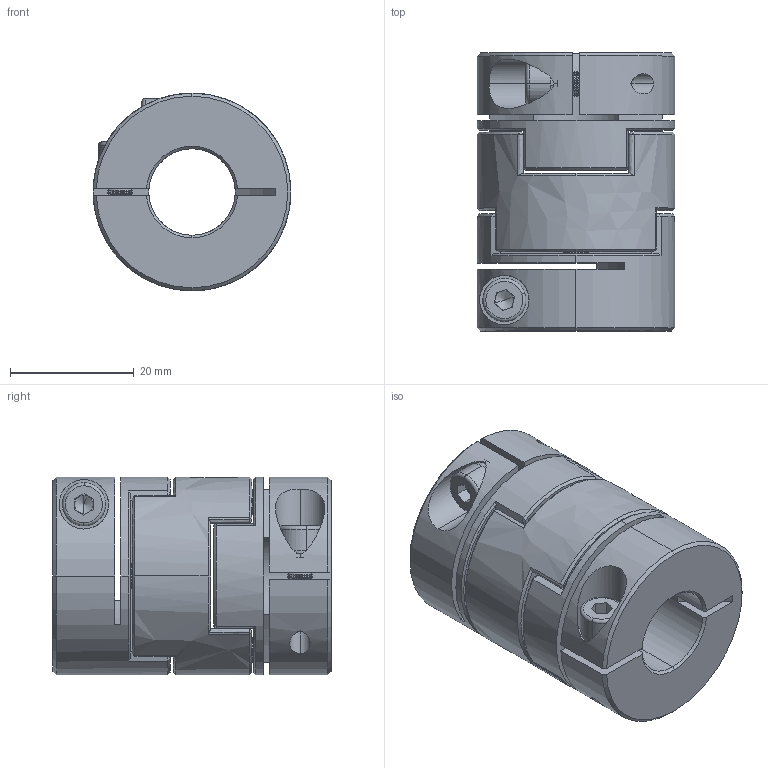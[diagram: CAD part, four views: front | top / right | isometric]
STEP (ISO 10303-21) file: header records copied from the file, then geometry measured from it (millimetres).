
FILE_DESCRIPTION (( 'STEP AP203' ), '1' );
FILE_NAME ('LZ-B-D32L45-14-16.STEP', '2021-10-29T06:48:24', ( '' ), ( '' ), 'SwSTEP 2.0', 'SolidWorks 2018', '' );
FILE_SCHEMA (( 'CONFIG_CONTROL_DESIGN' ));
Length unit declared in the file: millimetre
Products named in the file (1): LZ-B-D32L45-14-16
Bounding box: 32 x 45 x 32 mm (x, y, z)
Volume: 25811.5 mm3; surface area: 12938.7 mm2
Topology: 1 solids, 1 shells, 357 faces, 862 edges, 502 vertices
Faces by surface type: cone 118, cylinder 92, plane 85, bspline 54, torus 8
Entity records: 11209 total; most frequent: CARTESIAN_POINT 3224, ORIENTED_EDGE 1716, DIRECTION 1582, EDGE_CURVE 858, AXIS2_PLACEMENT_3D 620, VERTEX_POINT 502, EDGE_LOOP 382, FACE_OUTER_BOUND 357
